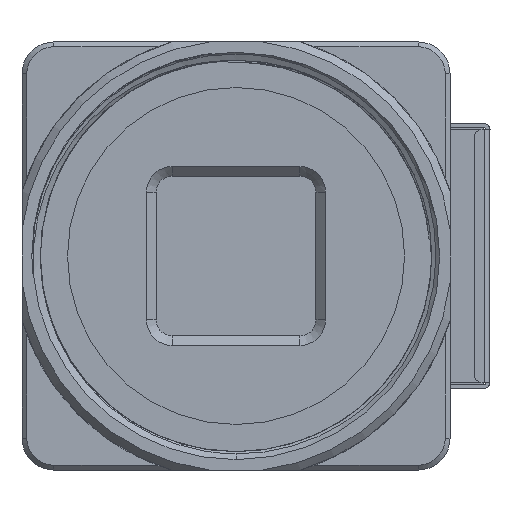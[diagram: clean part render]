
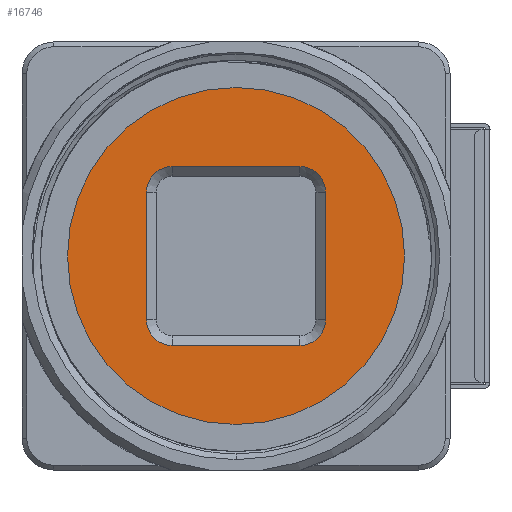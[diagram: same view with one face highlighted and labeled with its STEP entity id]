
A CAD part, front view. The second image highlights one B-rep face of the part: STEP entity #16746.
In plain terms, the highlighted planar face has unit normal (0, -1, 0).
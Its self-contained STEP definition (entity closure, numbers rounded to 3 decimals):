
#2547 = CIRCLE ( 'NONE', #42976, 1.6 ) ;
#6174 = EDGE_CURVE ( 'NONE', #127836, #24498, #78777, .T. ) ;
#6338 = DIRECTION ( 'NONE',  ( 0., -1., 0. ) ) ;
#10284 = AXIS2_PLACEMENT_3D ( 'NONE', #90401, #152186, #25951 ) ;
#10826 = DIRECTION ( 'NONE',  ( 0., -1., 0. ) ) ;
#10911 = CARTESIAN_POINT ( 'NONE',  ( 4., 3.8, -5.6 ) ) ;
#11592 = EDGE_CURVE ( 'NONE', #154608, #64684, #46203, .T. ) ;
#12391 = EDGE_CURVE ( 'NONE', #106619, #130858, #16576, .T. ) ;
#12968 = DIRECTION ( 'NONE',  ( 0., 0., -1. ) ) ;
#16576 = CIRCLE ( 'NONE', #108507, 1.6 ) ;
#16590 = DIRECTION ( 'NONE',  ( -1., 0., 0. ) ) ;
#16746 = ADVANCED_FACE ( 'NONE', ( #62460, #51378 ), #76105, .T. ) ;
#24282 = CARTESIAN_POINT ( 'NONE',  ( -4., 3.8, 4. ) ) ;
#24498 = VERTEX_POINT ( 'NONE', #74148 ) ;
#25951 = DIRECTION ( 'NONE',  ( 0., 0., -1. ) ) ;
#29174 = DIRECTION ( 'NONE',  ( 0., 0., -1. ) ) ;
#29238 = CARTESIAN_POINT ( 'NONE',  ( 0., 3.8, 5.6 ) ) ;
#29734 = LINE ( 'NONE', #159222, #106906 ) ;
#35370 = ORIENTED_EDGE ( 'NONE', *, *, #11592, .F. ) ;
#39749 = CARTESIAN_POINT ( 'NONE',  ( -4., 3.8, 5.6 ) ) ;
#41690 = DIRECTION ( 'NONE',  ( 0., -1., 0. ) ) ;
#42976 = AXIS2_PLACEMENT_3D ( 'NONE', #93637, #6338, #29174 ) ;
#43310 = ORIENTED_EDGE ( 'NONE', *, *, #121167, .T. ) ;
#43607 = LINE ( 'NONE', #97013, #70565 ) ;
#44355 = DIRECTION ( 'NONE',  ( 0., -1., 0. ) ) ;
#45843 = CARTESIAN_POINT ( 'NONE',  ( 5.6, 3.8, -4. ) ) ;
#46203 = CIRCLE ( 'NONE', #89516, 1.6 ) ;
#47488 = CARTESIAN_POINT ( 'NONE',  ( 5.6, 3.8, 4. ) ) ;
#51378 = FACE_OUTER_BOUND ( 'NONE', #65636, .T. ) ;
#52037 = ORIENTED_EDGE ( 'NONE', *, *, #6174, .F. ) ;
#54401 = CARTESIAN_POINT ( 'NONE',  ( 4., 3.8, -4. ) ) ;
#56093 = VECTOR ( 'NONE', #16590, 1000. ) ;
#58935 = EDGE_CURVE ( 'NONE', #64684, #138883, #129766, .T. ) ;
#62460 = FACE_BOUND ( 'NONE', #89693, .T. ) ;
#63704 = CARTESIAN_POINT ( 'NONE',  ( 5.6, 3.8, 0. ) ) ;
#63820 = CARTESIAN_POINT ( 'NONE',  ( 0., 3.8, 0. ) ) ;
#64684 = VERTEX_POINT ( 'NONE', #45843 ) ;
#65636 = EDGE_LOOP ( 'NONE', ( #143637, #43310 ) ) ;
#70565 = VECTOR ( 'NONE', #161188, 1000. ) ;
#74148 = CARTESIAN_POINT ( 'NONE',  ( -5.6, 3.8, 4. ) ) ;
#74308 = DIRECTION ( 'NONE',  ( 0., -1., 0. ) ) ;
#75465 = AXIS2_PLACEMENT_3D ( 'NONE', #160286, #44355, #149473 ) ;
#76105 = PLANE ( 'NONE',  #10284 ) ;
#76689 = ORIENTED_EDGE ( 'NONE', *, *, #164837, .F. ) ;
#77203 = VECTOR ( 'NONE', #91649, 1000. ) ;
#77911 = CARTESIAN_POINT ( 'NONE',  ( 4., 3.8, 5.6 ) ) ;
#78777 = CIRCLE ( 'NONE', #130107, 1.6 ) ;
#83337 = VERTEX_POINT ( 'NONE', #77911 ) ;
#83807 = CARTESIAN_POINT ( 'NONE',  ( 0., 3.8, 10.55 ) ) ;
#89516 = AXIS2_PLACEMENT_3D ( 'NONE', #54401, #41690, #120476 ) ;
#89693 = EDGE_LOOP ( 'NONE', ( #76689, #145911, #35370, #112155, #129657, #122494, #52037, #101531 ) ) ;
#90369 = LINE ( 'NONE', #29238, #56093 ) ;
#90401 = CARTESIAN_POINT ( 'NONE',  ( 0., 3.8, 0. ) ) ;
#91649 = DIRECTION ( 'NONE',  ( 0., 0., 1. ) ) ;
#91772 = DIRECTION ( 'NONE',  ( 0., -1., 0. ) ) ;
#93637 = CARTESIAN_POINT ( 'NONE',  ( 4., 3.8, 4. ) ) ;
#97013 = CARTESIAN_POINT ( 'NONE',  ( -5.6, 3.8, 0. ) ) ;
#100641 = CARTESIAN_POINT ( 'NONE',  ( -4., 3.8, -5.6 ) ) ;
#101531 = ORIENTED_EDGE ( 'NONE', *, *, #152102, .F. ) ;
#103848 = DIRECTION ( 'NONE',  ( 0., 0., -1. ) ) ;
#106619 = VERTEX_POINT ( 'NONE', #163865 ) ;
#106906 = VECTOR ( 'NONE', #133996, 1000. ) ;
#108507 = AXIS2_PLACEMENT_3D ( 'NONE', #150463, #74308, #139425 ) ;
#112155 = ORIENTED_EDGE ( 'NONE', *, *, #162561, .F. ) ;
#116000 = CIRCLE ( 'NONE', #118763, 10.55 ) ;
#118763 = AXIS2_PLACEMENT_3D ( 'NONE', #63820, #91772, #12968 ) ;
#120476 = DIRECTION ( 'NONE',  ( 0., 0., -1. ) ) ;
#121167 = EDGE_CURVE ( 'NONE', #128724, #136203, #116000, .T. ) ;
#122494 = ORIENTED_EDGE ( 'NONE', *, *, #165334, .F. ) ;
#124254 = CARTESIAN_POINT ( 'NONE',  ( 0., 3.8, -10.55 ) ) ;
#127836 = VERTEX_POINT ( 'NONE', #39749 ) ;
#128724 = VERTEX_POINT ( 'NONE', #83807 ) ;
#129657 = ORIENTED_EDGE ( 'NONE', *, *, #12391, .F. ) ;
#129766 = LINE ( 'NONE', #63704, #77203 ) ;
#130107 = AXIS2_PLACEMENT_3D ( 'NONE', #24282, #10826, #103848 ) ;
#130858 = VERTEX_POINT ( 'NONE', #100641 ) ;
#133996 = DIRECTION ( 'NONE',  ( 1., 0., 0. ) ) ;
#136203 = VERTEX_POINT ( 'NONE', #124254 ) ;
#138883 = VERTEX_POINT ( 'NONE', #47488 ) ;
#139425 = DIRECTION ( 'NONE',  ( 0., 0., -1. ) ) ;
#143637 = ORIENTED_EDGE ( 'NONE', *, *, #157464, .T. ) ;
#145911 = ORIENTED_EDGE ( 'NONE', *, *, #58935, .F. ) ;
#148385 = CIRCLE ( 'NONE', #75465, 10.55 ) ;
#149473 = DIRECTION ( 'NONE',  ( 0., 0., -1. ) ) ;
#150463 = CARTESIAN_POINT ( 'NONE',  ( -4., 3.8, -4. ) ) ;
#152102 = EDGE_CURVE ( 'NONE', #83337, #127836, #90369, .T. ) ;
#152186 = DIRECTION ( 'NONE',  ( 0., -1., 0. ) ) ;
#154608 = VERTEX_POINT ( 'NONE', #10911 ) ;
#157464 = EDGE_CURVE ( 'NONE', #136203, #128724, #148385, .T. ) ;
#159222 = CARTESIAN_POINT ( 'NONE',  ( 0., 3.8, -5.6 ) ) ;
#160286 = CARTESIAN_POINT ( 'NONE',  ( 0., 3.8, 0. ) ) ;
#161188 = DIRECTION ( 'NONE',  ( 0., 0., -1. ) ) ;
#162561 = EDGE_CURVE ( 'NONE', #130858, #154608, #29734, .T. ) ;
#163865 = CARTESIAN_POINT ( 'NONE',  ( -5.6, 3.8, -4. ) ) ;
#164837 = EDGE_CURVE ( 'NONE', #138883, #83337, #2547, .T. ) ;
#165334 = EDGE_CURVE ( 'NONE', #24498, #106619, #43607, .T. ) ;
